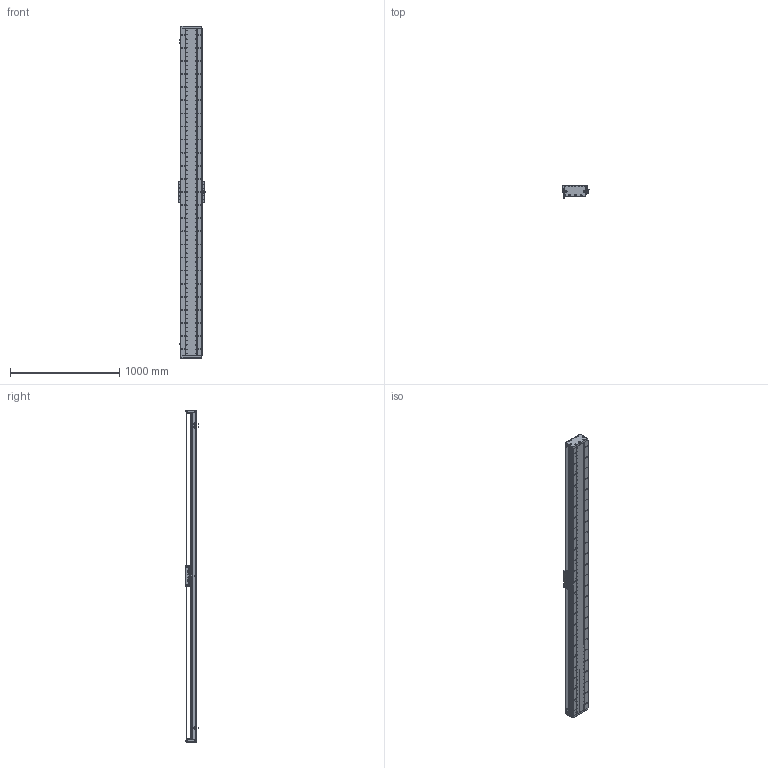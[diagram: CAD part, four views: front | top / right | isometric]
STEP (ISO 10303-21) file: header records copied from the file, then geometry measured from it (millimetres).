
FILE_DESCRIPTION (( 'STEP AP203' ), '1' );
FILE_NAME ('DA-C195-C2-T2760-C010-0.2 眻盄萇儂.STEP', '2025-08-15T01:14:57', ( '' ), ( '' ), 'SwSTEP 2.0', 'SolidWorks 2019', '' );
FILE_SCHEMA (( 'CONFIG_CONTROL_DESIGN' ));
Length unit declared in the file: millimetre
Products named in the file (15): DA195詩湍菜輸; LMT黍杅芛; CU195-C2賑輸-俋楷; DA195詩湍郪璃; IU-CU195-L-00 菁釱(L3000); DA195詩湍裔啣; MS200 棠掑喜S315-T1740; DA165-GYP-00 光电感应片(默认); PM-T45ㄗ侂狟ㄘ; IU-CU195-L 菁釱絳寢; DA95-HXJ-00 遣喳砎蝶; DA-C195-C2-T2760-C010-0.2 眻盄萇儂; DA-C195-GD-DB-H-00 傷啣; DA195詩湍嶺輸; 葩璃 DA95-GT-T-00
Assembly tree (29 placements, depth 3):
  DA-C195-C2-T2760-C010-0.2 眻盄萇儂
    DA195詩湍郪璃
      DA195詩湍菜輸  x2
      DA195詩湍裔啣
      DA195詩湍嶺輸  x2
      DA95-HXJ-00 遣喳砎蝶  x8
      DA-C195-GD-DB-H-00 傷啣  x2
    IU-CU195-L 菁釱絳寢
      IU-CU195-L-00 菁釱(L3000)
      葩璃 DA95-GT-T-00  x4
    LMT黍杅芛
    MS200 棠掑喜S315-T1740
    PM-T45ㄗ侂狟ㄘ  x3
    DA165-GYP-00 光电感应片(默认)
    CU195-C2賑輸-俋楷
Bounding box: 248 x 115.45 x 3040 mm (x, y, z)
Volume: 17165031.2 mm3; surface area: 5103438.3 mm2
Topology: 66 solids, 130 shells, 4552 faces, 12883 edges, 8135 vertices
Faces by surface type: cylinder 2527, plane 1407, cone 530, torus 52, sphere 36
Entity records: 149011 total; most frequent: CARTESIAN_POINT 41454, ORIENTED_EDGE 22650, DIRECTION 21552, EDGE_CURVE 11325, AXIS2_PLACEMENT_3D 8109, VERTEX_POINT 7337, VECTOR 5334, LINE 5334
